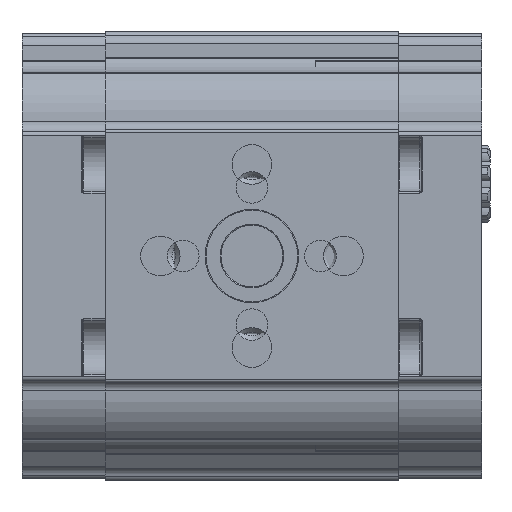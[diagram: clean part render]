
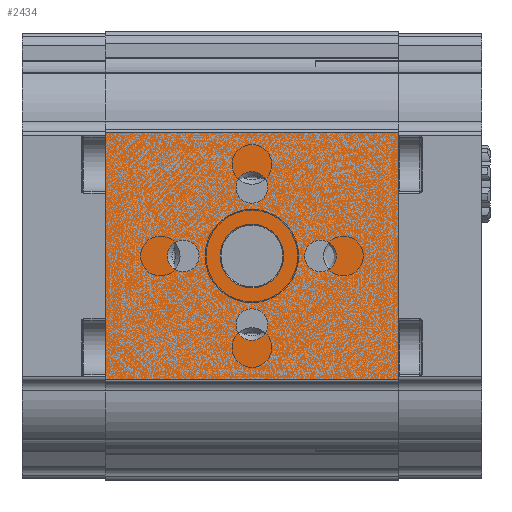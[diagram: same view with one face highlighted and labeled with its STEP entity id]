
A CAD part, left-side view. The second image highlights one B-rep face of the part: STEP entity #2434.
In plain terms, the highlighted planar face has unit normal (-1, 0, 0) as drawn and (1, 0, 0) by its records, which use the part's own axes.
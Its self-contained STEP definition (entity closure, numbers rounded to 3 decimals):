
#2434 = ADVANCED_FACE( '', ( #5408, #5409, #5410, #5411, #5412, #5413 ), #5414, .T. );
#5408 = FACE_BOUND( '', #9501, .T. );
#5409 = FACE_BOUND( '', #9502, .T. );
#5410 = FACE_BOUND( '', #9503, .T. );
#5411 = FACE_BOUND( '', #9504, .T. );
#5412 = FACE_BOUND( '', #9505, .T. );
#5413 = FACE_OUTER_BOUND( '', #9506, .T. );
#5414 = PLANE( '', #9507 );
#9501 = EDGE_LOOP( '', ( #17347 ) );
#9502 = EDGE_LOOP( '', ( #17348 ) );
#9503 = EDGE_LOOP( '', ( #17349 ) );
#9504 = EDGE_LOOP( '', ( #17350 ) );
#9505 = EDGE_LOOP( '', ( #17351 ) );
#9506 = EDGE_LOOP( '', ( #17352, #17353, #17354, #17355 ) );
#9507 = AXIS2_PLACEMENT_3D( '', #17356, #17357, #17358 );
#17347 = ORIENTED_EDGE( '', *, *, #24783, .T. );
#17348 = ORIENTED_EDGE( '', *, *, #24208, .T. );
#17349 = ORIENTED_EDGE( '', *, *, #24784, .T. );
#17350 = ORIENTED_EDGE( '', *, *, #23330, .T. );
#17351 = ORIENTED_EDGE( '', *, *, #23778, .T. );
#17352 = ORIENTED_EDGE( '', *, *, #24785, .F. );
#17353 = ORIENTED_EDGE( '', *, *, #22120, .F. );
#17354 = ORIENTED_EDGE( '', *, *, #24786, .T. );
#17355 = ORIENTED_EDGE( '', *, *, #24787, .T. );
#17356 = CARTESIAN_POINT( '', ( 43., 64., 27.048 ) );
#17357 = DIRECTION( '', ( 1., 0., 0. ) );
#17358 = DIRECTION( '', ( 0., 0., -1. ) );
#22120 = EDGE_CURVE( '', #26236, #26232, #26238, .T. );
#23330 = EDGE_CURVE( '', #28273, #28273, #28274, .F. );
#23778 = EDGE_CURVE( '', #28975, #28975, #28976, .F. );
#24208 = EDGE_CURVE( '', #29600, #29600, #29601, .F. );
#24783 = EDGE_CURVE( '', #30354, #30354, #30355, .F. );
#24784 = EDGE_CURVE( '', #30356, #30356, #30357, .F. );
#24785 = EDGE_CURVE( '', #26232, #30358, #30359, .T. );
#24786 = EDGE_CURVE( '', #26236, #30360, #30361, .T. );
#24787 = EDGE_CURVE( '', #30360, #30358, #30362, .T. );
#26232 = VERTEX_POINT( '', #32299 );
#26236 = VERTEX_POINT( '', #32304 );
#26238 = LINE( '', #32306, #32307 );
#28273 = VERTEX_POINT( '', #35734 );
#28274 = CIRCLE( '', #35735, 3.459 );
#28975 = VERTEX_POINT( '', #37045 );
#28976 = CIRCLE( '', #37046, 3.459 );
#29600 = VERTEX_POINT( '', #38223 );
#29601 = CIRCLE( '', #38224, 3.459 );
#30354 = VERTEX_POINT( '', #39979 );
#30355 = CIRCLE( '', #39980, 6.95 );
#30356 = VERTEX_POINT( '', #39981 );
#30357 = CIRCLE( '', #39982, 3.459 );
#30358 = VERTEX_POINT( '', #39983 );
#30359 = LINE( '', #39984, #39985 );
#30360 = VERTEX_POINT( '', #39986 );
#30361 = LINE( '', #39987, #39988 );
#30362 = LINE( '', #39989, #39990 );
#32299 = CARTESIAN_POINT( '', ( 43., 0., -27.048 ) );
#32304 = CARTESIAN_POINT( '', ( 43., 64., -27.048 ) );
#32306 = CARTESIAN_POINT( '', ( 43., 64., -27.048 ) );
#32307 = VECTOR( '', #42639, 1000. );
#35734 = CARTESIAN_POINT( '', ( 43., 32., 11.542 ) );
#35735 = AXIS2_PLACEMENT_3D( '', #44207, #44208, #44209 );
#37045 = CARTESIAN_POINT( '', ( 43., 17., -3.458 ) );
#37046 = AXIS2_PLACEMENT_3D( '', #44656, #44657, #44658 );
#38223 = CARTESIAN_POINT( '', ( 43., 32., -18.459 ) );
#38224 = AXIS2_PLACEMENT_3D( '', #45214, #45215, #45216 );
#39979 = CARTESIAN_POINT( '', ( 43., 32., -6.95 ) );
#39980 = AXIS2_PLACEMENT_3D( '', #45745, #45746, #45747 );
#39981 = CARTESIAN_POINT( '', ( 43., 47., -3.459 ) );
#39982 = AXIS2_PLACEMENT_3D( '', #45748, #45749, #45750 );
#39983 = CARTESIAN_POINT( '', ( 43., 0., 27.048 ) );
#39984 = CARTESIAN_POINT( '', ( 43., 0., 27.048 ) );
#39985 = VECTOR( '', #45751, 1000. );
#39986 = CARTESIAN_POINT( '', ( 43., 64., 27.048 ) );
#39987 = CARTESIAN_POINT( '', ( 43., 64., 27.048 ) );
#39988 = VECTOR( '', #45752, 1000. );
#39989 = CARTESIAN_POINT( '', ( 43., 64., 27.048 ) );
#39990 = VECTOR( '', #45753, 1000. );
#42639 = DIRECTION( '', ( 0., -1., 0. ) );
#44207 = CARTESIAN_POINT( '', ( 43., 32., 15. ) );
#44208 = DIRECTION( '', ( 1., 0., 0. ) );
#44209 = DIRECTION( '', ( 0., 0., -1. ) );
#44656 = CARTESIAN_POINT( '', ( 43., 17., 0. ) );
#44657 = DIRECTION( '', ( 1., 0., 0. ) );
#44658 = DIRECTION( '', ( 0., 0., -1. ) );
#45214 = CARTESIAN_POINT( '', ( 43., 32., -15. ) );
#45215 = DIRECTION( '', ( 1., 0., 0. ) );
#45216 = DIRECTION( '', ( 0., 0., -1. ) );
#45745 = CARTESIAN_POINT( '', ( 43., 32., 0. ) );
#45746 = DIRECTION( '', ( 1., 0., 0. ) );
#45747 = DIRECTION( '', ( 0., 0., -1. ) );
#45748 = CARTESIAN_POINT( '', ( 43., 47., 0. ) );
#45749 = DIRECTION( '', ( 1., 0., 0. ) );
#45750 = DIRECTION( '', ( 0., 0., -1. ) );
#45751 = DIRECTION( '', ( 0., 0., 1. ) );
#45752 = DIRECTION( '', ( 0., 0., 1. ) );
#45753 = DIRECTION( '', ( 0., -1., 0. ) );
